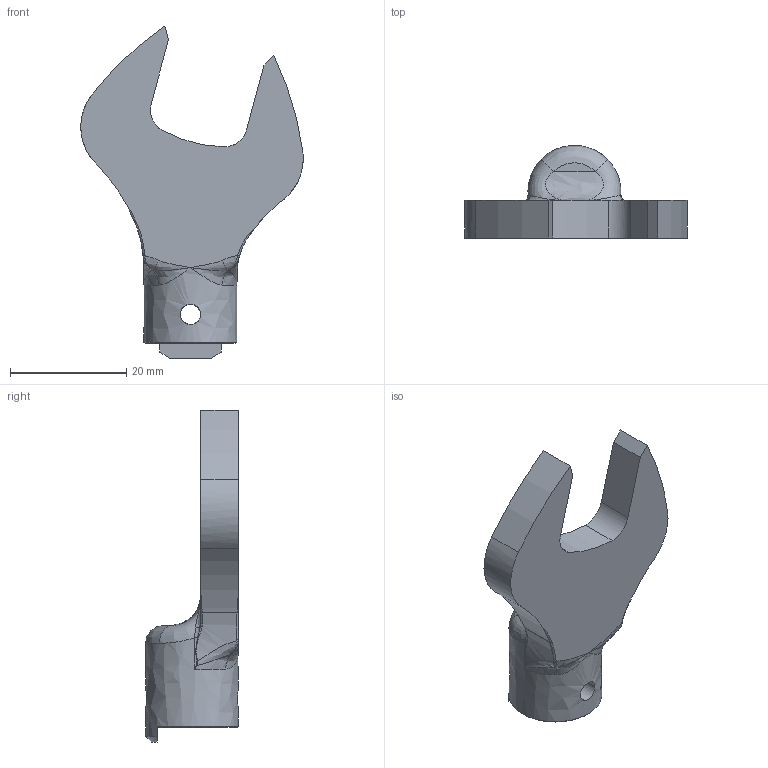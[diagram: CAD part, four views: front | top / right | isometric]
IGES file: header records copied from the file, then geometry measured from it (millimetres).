
Global section: file name: SH10DX17; native system: Autodesk Inventor 2016; preprocessor: unknown; author: Q600; date: 20151029.184743; units: millimetre
Bounding box: 38.28 x 16 x 57.13 mm (x, y, z)
Volume: 7594.5 mm3; surface area: 4243.1 mm2
Topology: 1 solids, 1 shells, 76 faces, 210 edges, 125 vertices
Faces by surface type: bspline 76
